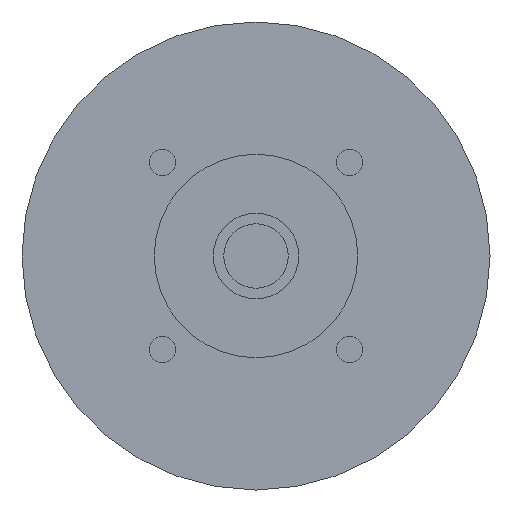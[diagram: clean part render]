
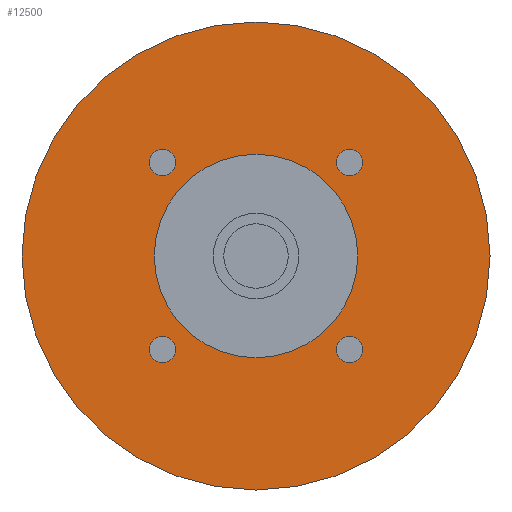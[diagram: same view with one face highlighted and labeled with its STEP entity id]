
A CAD part, left-side view. The second image highlights one B-rep face of the part: STEP entity #12500.
In plain terms, the highlighted planar face has unit normal (-1, 0, 0) as drawn and (0, 0, -1) by its records, which use the part's own axes.
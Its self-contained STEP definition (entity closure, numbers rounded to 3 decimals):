
#8610=CARTESIAN_POINT('',(57.5,0.,-47.001));
#8620=VERTEX_POINT('',#8610);
#8650=CARTESIAN_POINT('',(0.,0.,-47.001));
#8660=DIRECTION('',(0.,0.,-1.));
#8670=DIRECTION('',(0.,-1.,0.));
#8680=AXIS2_PLACEMENT_3D('',#8650,#8660,#8670);
#8690=CIRCLE('',#8680,57.5);
#8700=CARTESIAN_POINT('',(0.,-57.5,-47.001));
#8710=VERTEX_POINT('',#8700);
#8720=EDGE_CURVE('',#8620,#8710,#8690,.T.);
#8740=CARTESIAN_POINT('',(-57.5,0.,-47.001));
#8750=VERTEX_POINT('',#8740);
#8760=EDGE_CURVE('',#8710,#8750,#8690,.T.);
#11470=CARTESIAN_POINT('',(-22.981,-19.731,-47.001))
;
#11480=VERTEX_POINT('',#11470);
#11510=CARTESIAN_POINT('',(-22.981,-22.981,-47.001))
;
#11520=DIRECTION('',(0.,0.,-1.));
#11530=DIRECTION('',(0.,-1.,0.));
#11540=AXIS2_PLACEMENT_3D('',#11510,#11520,#11530);
#11550=CIRCLE('',#11540,3.25);
#11560=CARTESIAN_POINT('',(-22.981,-26.231,-47.001))
;
#11570=VERTEX_POINT('',#11560);
#11580=EDGE_CURVE('',#11570,#11480,#11550,.T.);
#11700=CARTESIAN_POINT('',(0.,0.,-47.001));
#11710=DIRECTION('',(0.,0.,-1.));
#11720=DIRECTION('',(1.,0.,0.));
#11730=AXIS2_PLACEMENT_3D('',#11700,#11710,#11720);
#11740=PLANE('',#11730);
#11750=CARTESIAN_POINT('',(22.981,22.981,-47.001));
#11760=DIRECTION('',(0.,0.,-1.));
#11770=DIRECTION('',(0.,1.,0.));
#11780=AXIS2_PLACEMENT_3D('',#11750,#11760,#11770);
#11790=CIRCLE('',#11780,3.25);
#11800=CARTESIAN_POINT('',(22.981,26.231,-47.001));
#11810=VERTEX_POINT('',#11800);
#11820=CARTESIAN_POINT('',(22.981,19.731,-47.001));
#11830=VERTEX_POINT('',#11820);
#11840=EDGE_CURVE('',#11810,#11830,#11790,.T.);
#11850=ORIENTED_EDGE('',*,*,#11840,.F.);
#11860=EDGE_CURVE('',#11830,#11810,#11790,.T.);
#11870=ORIENTED_EDGE('',*,*,#11860,.F.);
#11880=EDGE_LOOP('',(#11870,#11850));
#11890=FACE_BOUND('',#11880,.T.);
#11900=CARTESIAN_POINT('',(-22.981,22.981,-47.001));
#11910=DIRECTION('',(0.,0.,-1.));
#11920=DIRECTION('',(-1.,0.,0.));
#11930=AXIS2_PLACEMENT_3D('',#11900,#11910,#11920);
#11940=CIRCLE('',#11930,3.25);
#11950=CARTESIAN_POINT('',(-26.231,22.981,-47.001));
#11960=VERTEX_POINT('',#11950);
#11970=CARTESIAN_POINT('',(-19.731,22.981,-47.001));
#11980=VERTEX_POINT('',#11970);
#11990=EDGE_CURVE('',#11960,#11980,#11940,.T.);
#12000=ORIENTED_EDGE('',*,*,#11990,.F.);
#12010=EDGE_CURVE('',#11980,#11960,#11940,.T.);
#12020=ORIENTED_EDGE('',*,*,#12010,.F.);
#12030=EDGE_LOOP('',(#12020,#12000));
#12040=FACE_BOUND('',#12030,.T.);
#12050=ORIENTED_EDGE('',*,*,#11580,.F.);
#12060=EDGE_CURVE('',#11480,#11570,#11550,.T.);
#12070=ORIENTED_EDGE('',*,*,#12060,.F.);
#12080=EDGE_LOOP('',(#12070,#12050));
#12090=FACE_BOUND('',#12080,.T.);
#12100=CARTESIAN_POINT('',(0.,0.,
-47.001));
#12110=DIRECTION('',(0.,0.,1.));
#12120=DIRECTION('',(0.,1.,0.));
#12130=AXIS2_PLACEMENT_3D('',#12100,#12110,#12120);
#12140=CIRCLE('',#12130,25.);
#12150=CARTESIAN_POINT('',(-25.,0.,-47.001));
#12160=VERTEX_POINT('',#12150);
#12170=CARTESIAN_POINT('',(25.,0.,-47.001));
#12180=VERTEX_POINT('',#12170);
#12190=EDGE_CURVE('',#12160,#12180,#12140,.T.);
#12200=ORIENTED_EDGE('',*,*,#12190,.T.);
#12210=CARTESIAN_POINT('',(0.,25.,-47.001));
#12220=VERTEX_POINT('',#12210);
#12230=EDGE_CURVE('',#12220,#12160,#12140,.T.);
#12240=ORIENTED_EDGE('',*,*,#12230,.T.);
#12250=EDGE_CURVE('',#12180,#12220,#12140,.T.);
#12260=ORIENTED_EDGE('',*,*,#12250,.T.);
#12270=EDGE_LOOP('',(#12260,#12240,#12200));
#12280=FACE_BOUND('',#12270,.T.);
#12290=CARTESIAN_POINT('',(22.981,-22.981,-47.001));
#12300=DIRECTION('',(0.,0.,-1.));
#12310=DIRECTION('',(1.,0.,0.));
#12320=AXIS2_PLACEMENT_3D('',#12290,#12300,#12310);
#12330=CIRCLE('',#12320,3.25);
#12340=CARTESIAN_POINT('',(26.231,-22.981,-47.001));
#12350=VERTEX_POINT('',#12340);
#12360=CARTESIAN_POINT('',(19.731,-22.981,-47.001));
#12370=VERTEX_POINT('',#12360);
#12380=EDGE_CURVE('',#12350,#12370,#12330,.T.);
#12390=ORIENTED_EDGE('',*,*,#12380,.F.);
#12400=EDGE_CURVE('',#12370,#12350,#12330,.T.);
#12410=ORIENTED_EDGE('',*,*,#12400,.F.);
#12420=EDGE_LOOP('',(#12410,#12390));
#12430=FACE_BOUND('',#12420,.T.);
#12440=EDGE_CURVE('',#8750,#8620,#8690,.T.);
#12450=ORIENTED_EDGE('',*,*,#12440,.T.);
#12460=ORIENTED_EDGE('',*,*,#8760,.T.);
#12470=ORIENTED_EDGE('',*,*,#8720,.T.);
#12480=EDGE_LOOP('',(#12470,#12460,#12450));
#12490=FACE_OUTER_BOUND('',#12480,.T.);
#12500=ADVANCED_FACE('',(#11890,#12040,#12090,#12280,#12430,#12490),
#11740,.T.);
